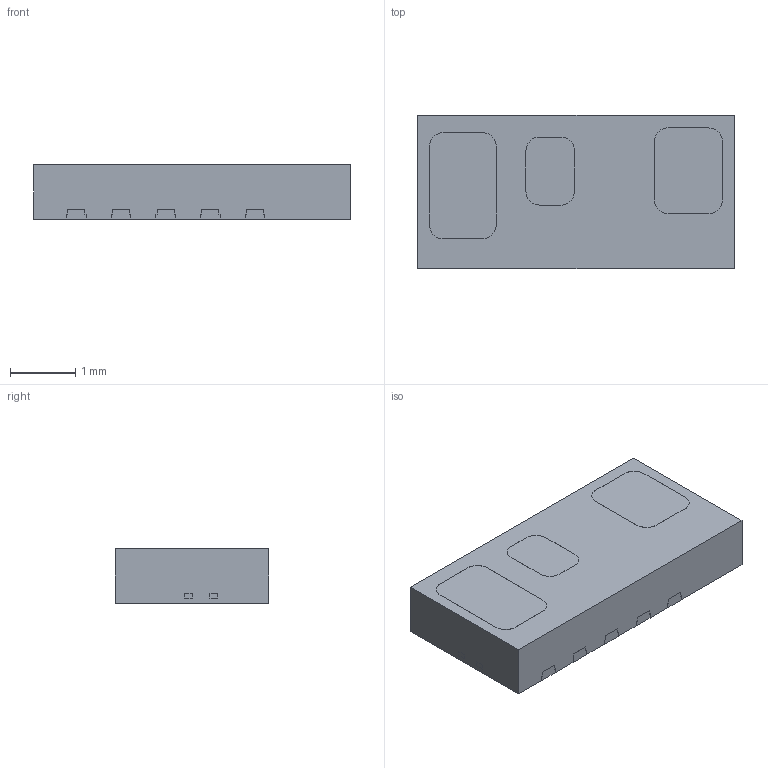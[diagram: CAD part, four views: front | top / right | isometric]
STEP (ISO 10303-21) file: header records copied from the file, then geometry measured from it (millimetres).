
FILE_DESCRIPTION((''),'2;1');
FILE_NAME('M:\Dokumente\Inventor Extern\VCNL4030 Kundenproblem\49287.stp','2015-01-20T09:29:49',('akamay'),(''),'Autodesk Inventor 2013','Autodesk Inventor 2013','');
FILE_SCHEMA(('AUTOMOTIVE_DESIGN { 1 0 10303 214 1 1 1 1 }'));
Length unit declared in the file: millimetre
Products named in the file (1): 49287
Bounding box: 4.85 x 2.35 x 0.83 mm (x, y, z)
Volume: 9.5 mm3; surface area: 34.8 mm2
Topology: 1 solids, 1 shells, 173 faces, 507 edges, 342 vertices
Faces by surface type: plane 142, cylinder 19, bspline 12
Entity records: 6131 total; most frequent: CARTESIAN_POINT 1443, ORIENTED_EDGE 1014, DIRECTION 893, EDGE_CURVE 507, VECTOR 445, LINE 445, VERTEX_POINT 342, AXIS2_PLACEMENT_3D 224
